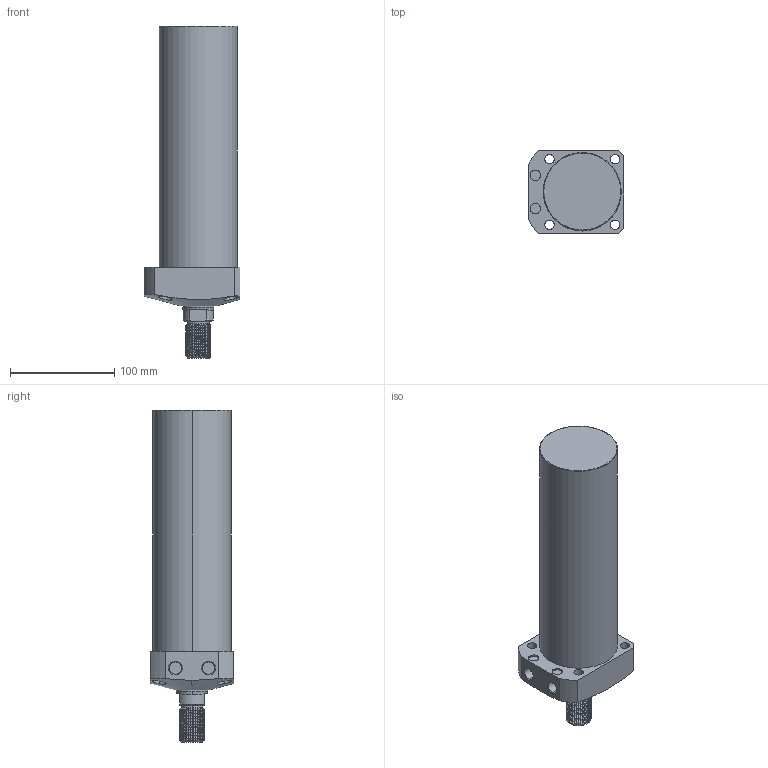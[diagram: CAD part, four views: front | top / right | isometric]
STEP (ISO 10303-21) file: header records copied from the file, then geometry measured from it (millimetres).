
FILE_DESCRIPTION (( 'STEP AP203' ), '1' );
FILE_NAME ('CLL-075CT-195.STEP', '2020-01-08T12:20:46', ( '' ), ( '' ), 'SwSTEP 2.0', 'SolidWorks 2015', '' );
FILE_SCHEMA (( 'CONFIG_CONTROL_DESIGN' ));
Length unit declared in the file: millimetre
Products named in the file (1): CLL-075CT-195
Bounding box: 92 x 80 x 319 mm (x, y, z)
Volume: 1266228 mm3; surface area: 89442.2 mm2
Topology: 1 solids, 1 shells, 121 faces, 310 edges, 202 vertices
Faces by surface type: cylinder 77, plane 23, cone 17, torus 2, bspline 2
Entity records: 6533 total; most frequent: CARTESIAN_POINT 3743, ORIENTED_EDGE 620, DIRECTION 517, EDGE_CURVE 310, AXIS2_PLACEMENT_3D 204, VERTEX_POINT 202, EDGE_LOOP 140, FACE_OUTER_BOUND 121
